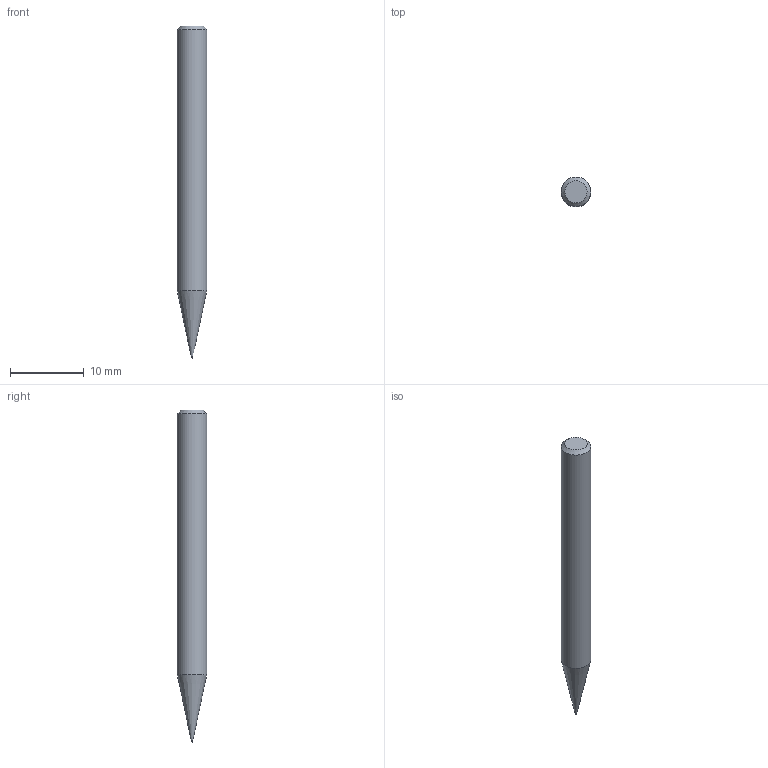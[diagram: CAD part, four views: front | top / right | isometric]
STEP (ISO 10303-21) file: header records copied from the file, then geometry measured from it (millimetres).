
FILE_DESCRIPTION((''),'2;1');
FILE_NAME('C:\Users\nsx150\AppData\Local\Temp\Mastercam 2021\CC00YWH0Y5\TEMP.step','2021-04-08T15:17:55',(''),(''),'STEP Write','Mastercam 2021 ... CNC Software, Inc.','');
FILE_SCHEMA(('AUTOMOTIVE_DESIGN'));
Length unit declared in the file: millimetre
Products named in the file (1): None
Bounding box: 4 x 4 x 45 mm (x, y, z)
Volume: 489.2 mm3; surface area: 520.3 mm2
Topology: 2 solids, 2 shells, 8 faces, 12 edges, 7 vertices
Faces by surface type: plane 3, cylinder 2, cone 2, sphere 1
Full cylindrical faces by diameter (mm): 0.2 x1, 4 x1
Entity records: 190 total; most frequent: DIRECTION 32, CARTESIAN_POINT 22, AXIS2_PLACEMENT_3D 16, ORIENTED_EDGE 12, EDGE_LOOP 12, STYLED_ITEM 11, ADVANCED_FACE 8, VERTEX_POINT 6
